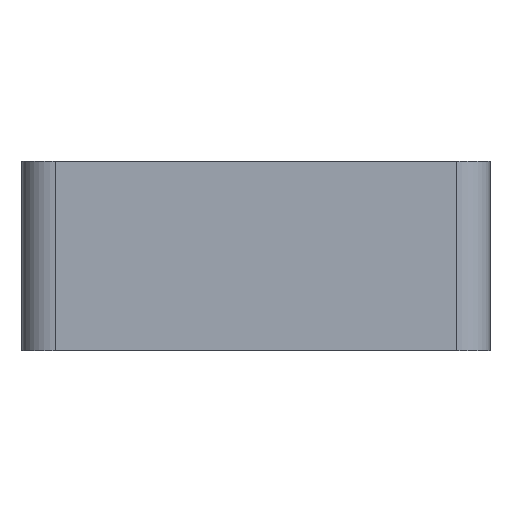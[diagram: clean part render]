
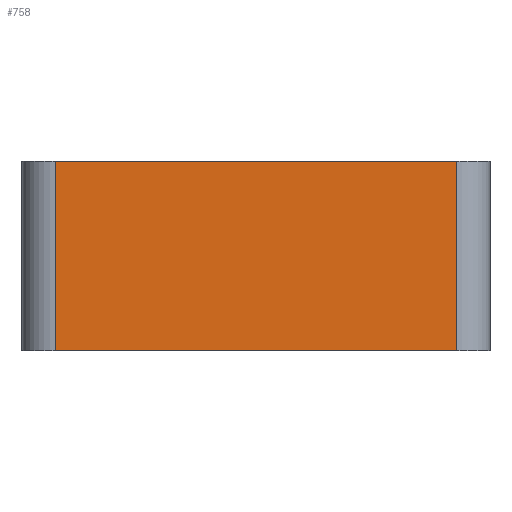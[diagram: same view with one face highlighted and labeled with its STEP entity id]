
A CAD part, front view. The second image highlights one B-rep face of the part: STEP entity #758.
In plain terms, the highlighted planar face has unit normal (0, -1, 0).
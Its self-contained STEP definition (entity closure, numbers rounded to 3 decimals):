
#44 = PLANE('',#45);
#45 = AXIS2_PLACEMENT_3D('',#46,#47,#48);
#46 = CARTESIAN_POINT('',(-105.,-150.,85.));
#47 = DIRECTION('',(0.,0.,1.));
#48 = DIRECTION('',(1.,0.,0.));
#72 = CYLINDRICAL_SURFACE('',#73,15.);
#73 = AXIS2_PLACEMENT_3D('',#74,#75,#76);
#74 = CARTESIAN_POINT('',(-90.,-135.,0.));
#75 = DIRECTION('',(0.,0.,1.));
#76 = DIRECTION('',(-1.,-0.,0.));
#100 = PLANE('',#101);
#101 = AXIS2_PLACEMENT_3D('',#102,#103,#104);
#102 = CARTESIAN_POINT('',(-105.,-150.,0.));
#103 = DIRECTION('',(0.,0.,1.));
#104 = DIRECTION('',(1.,0.,0.));
#143 = VERTEX_POINT('',#144);
#144 = CARTESIAN_POINT('',(-90.,-150.,85.));
#166 = EDGE_CURVE('',#143,#167,#169,.T.);
#167 = VERTEX_POINT('',#168);
#168 = CARTESIAN_POINT('',(90.,-150.,85.));
#169 = SURFACE_CURVE('',#170,(#174,#181),.PCURVE_S1.);
#170 = LINE('',#171,#172);
#171 = CARTESIAN_POINT('',(-105.,-150.,85.));
#172 = VECTOR('',#173,1.);
#173 = DIRECTION('',(1.,0.,0.));
#174 = PCURVE('',#44,#175);
#175 = DEFINITIONAL_REPRESENTATION('',(#176),#180);
#176 = LINE('',#177,#178);
#177 = CARTESIAN_POINT('',(0.,0.));
#178 = VECTOR('',#179,1.);
#179 = DIRECTION('',(1.,0.));
#180 = ( GEOMETRIC_REPRESENTATION_CONTEXT(2) 
PARAMETRIC_REPRESENTATION_CONTEXT() REPRESENTATION_CONTEXT('2D SPACE',''
  ) );
#181 = PCURVE('',#182,#187);
#182 = PLANE('',#183);
#183 = AXIS2_PLACEMENT_3D('',#184,#185,#186);
#184 = CARTESIAN_POINT('',(-105.,-150.,0.));
#185 = DIRECTION('',(0.,1.,0.));
#186 = DIRECTION('',(0.,0.,1.));
#187 = DEFINITIONAL_REPRESENTATION('',(#188),#192);
#188 = LINE('',#189,#190);
#189 = CARTESIAN_POINT('',(85.,0.));
#190 = VECTOR('',#191,1.);
#191 = DIRECTION('',(0.,1.));
#192 = ( GEOMETRIC_REPRESENTATION_CONTEXT(2) 
PARAMETRIC_REPRESENTATION_CONTEXT() REPRESENTATION_CONTEXT('2D SPACE',''
  ) );
#215 = CYLINDRICAL_SURFACE('',#216,15.);
#216 = AXIS2_PLACEMENT_3D('',#217,#218,#219);
#217 = CARTESIAN_POINT('',(90.,-135.,0.));
#218 = DIRECTION('',(0.,0.,1.));
#219 = DIRECTION('',(1.,0.,-0.));
#448 = VERTEX_POINT('',#449);
#449 = CARTESIAN_POINT('',(-90.,-150.,0.));
#471 = EDGE_CURVE('',#448,#143,#472,.T.);
#472 = SURFACE_CURVE('',#473,(#477,#484),.PCURVE_S1.);
#473 = LINE('',#474,#475);
#474 = CARTESIAN_POINT('',(-90.,-150.,0.));
#475 = VECTOR('',#476,1.);
#476 = DIRECTION('',(0.,0.,1.));
#477 = PCURVE('',#72,#478);
#478 = DEFINITIONAL_REPRESENTATION('',(#479),#483);
#479 = LINE('',#480,#481);
#480 = CARTESIAN_POINT('',(1.571,0.));
#481 = VECTOR('',#482,1.);
#482 = DIRECTION('',(0.,1.));
#483 = ( GEOMETRIC_REPRESENTATION_CONTEXT(2) 
PARAMETRIC_REPRESENTATION_CONTEXT() REPRESENTATION_CONTEXT('2D SPACE',''
  ) );
#484 = PCURVE('',#182,#485);
#485 = DEFINITIONAL_REPRESENTATION('',(#486),#490);
#486 = LINE('',#487,#488);
#487 = CARTESIAN_POINT('',(0.,15.));
#488 = VECTOR('',#489,1.);
#489 = DIRECTION('',(1.,0.));
#490 = ( GEOMETRIC_REPRESENTATION_CONTEXT(2) 
PARAMETRIC_REPRESENTATION_CONTEXT() REPRESENTATION_CONTEXT('2D SPACE',''
  ) );
#553 = EDGE_CURVE('',#448,#554,#556,.T.);
#554 = VERTEX_POINT('',#555);
#555 = CARTESIAN_POINT('',(90.,-150.,0.));
#556 = SURFACE_CURVE('',#557,(#561,#568),.PCURVE_S1.);
#557 = LINE('',#558,#559);
#558 = CARTESIAN_POINT('',(-105.,-150.,0.));
#559 = VECTOR('',#560,1.);
#560 = DIRECTION('',(1.,0.,0.));
#561 = PCURVE('',#100,#562);
#562 = DEFINITIONAL_REPRESENTATION('',(#563),#567);
#563 = LINE('',#564,#565);
#564 = CARTESIAN_POINT('',(0.,0.));
#565 = VECTOR('',#566,1.);
#566 = DIRECTION('',(1.,0.));
#567 = ( GEOMETRIC_REPRESENTATION_CONTEXT(2) 
PARAMETRIC_REPRESENTATION_CONTEXT() REPRESENTATION_CONTEXT('2D SPACE',''
  ) );
#568 = PCURVE('',#182,#569);
#569 = DEFINITIONAL_REPRESENTATION('',(#570),#574);
#570 = LINE('',#571,#572);
#571 = CARTESIAN_POINT('',(0.,0.));
#572 = VECTOR('',#573,1.);
#573 = DIRECTION('',(0.,1.));
#574 = ( GEOMETRIC_REPRESENTATION_CONTEXT(2) 
PARAMETRIC_REPRESENTATION_CONTEXT() REPRESENTATION_CONTEXT('2D SPACE',''
  ) );
#758 = ADVANCED_FACE('',(#759),#182,.F.);
#759 = FACE_BOUND('',#760,.F.);
#760 = EDGE_LOOP('',(#761,#762,#763,#764));
#761 = ORIENTED_EDGE('',*,*,#553,.F.);
#762 = ORIENTED_EDGE('',*,*,#471,.T.);
#763 = ORIENTED_EDGE('',*,*,#166,.T.);
#764 = ORIENTED_EDGE('',*,*,#765,.F.);
#765 = EDGE_CURVE('',#554,#167,#766,.T.);
#766 = SURFACE_CURVE('',#767,(#771,#778),.PCURVE_S1.);
#767 = LINE('',#768,#769);
#768 = CARTESIAN_POINT('',(90.,-150.,0.));
#769 = VECTOR('',#770,1.);
#770 = DIRECTION('',(0.,0.,1.));
#771 = PCURVE('',#182,#772);
#772 = DEFINITIONAL_REPRESENTATION('',(#773),#777);
#773 = LINE('',#774,#775);
#774 = CARTESIAN_POINT('',(0.,195.));
#775 = VECTOR('',#776,1.);
#776 = DIRECTION('',(1.,0.));
#777 = ( GEOMETRIC_REPRESENTATION_CONTEXT(2) 
PARAMETRIC_REPRESENTATION_CONTEXT() REPRESENTATION_CONTEXT('2D SPACE',''
  ) );
#778 = PCURVE('',#215,#779);
#779 = DEFINITIONAL_REPRESENTATION('',(#780),#784);
#780 = LINE('',#781,#782);
#781 = CARTESIAN_POINT('',(-1.571,0.));
#782 = VECTOR('',#783,1.);
#783 = DIRECTION('',(-0.,1.));
#784 = ( GEOMETRIC_REPRESENTATION_CONTEXT(2) 
PARAMETRIC_REPRESENTATION_CONTEXT() REPRESENTATION_CONTEXT('2D SPACE',''
  ) );
